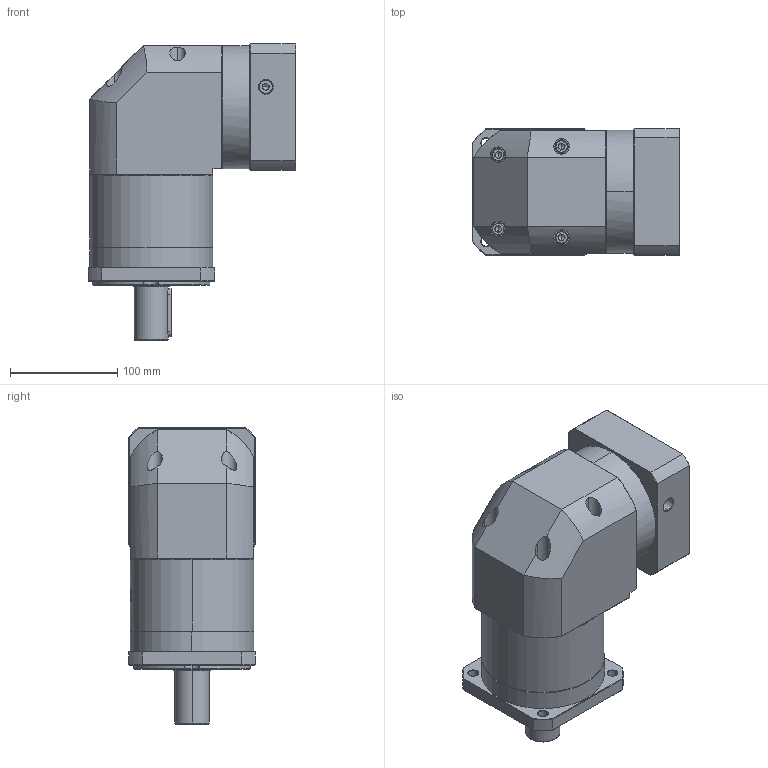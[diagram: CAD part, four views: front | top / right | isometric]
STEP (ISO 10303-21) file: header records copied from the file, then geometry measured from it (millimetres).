
FILE_DESCRIPTION (( 'STEP AP214' ), '1' );
FILE_NAME ('ZFR120A-D32-L2-P2-24-110-130-M8.step', '2023-08-27T08:09:39', ( '' ), ( '' ), 'SwSTEP 2.0', 'SolidWorks 2016', '' );
FILE_SCHEMA (( 'AUTOMOTIVE_DESIGN' ));
Length unit declared in the file: millimetre
Products named in the file (1): ZFR120A-D32-L2-P2-24-110-130-M8
Bounding box: 193.9 x 118 x 276.5 mm (x, y, z)
Volume: 3181932.1 mm3; surface area: 255308.8 mm2
Topology: 6 solids, 6 shells, 2265 faces, 5985 edges, 3825 vertices
Faces by surface type: plane 1061, cylinder 434, bspline 424, cone 338, torus 8
Entity records: 124458 total; most frequent: CARTESIAN_POINT 48992, ORIENTED_EDGE 11910, DIRECTION 8640, EDGE_CURVE 5955, VERTEX_POINT 3825, LINE 3160, VECTOR 3160, AXIS2_PLACEMENT_3D 2740
